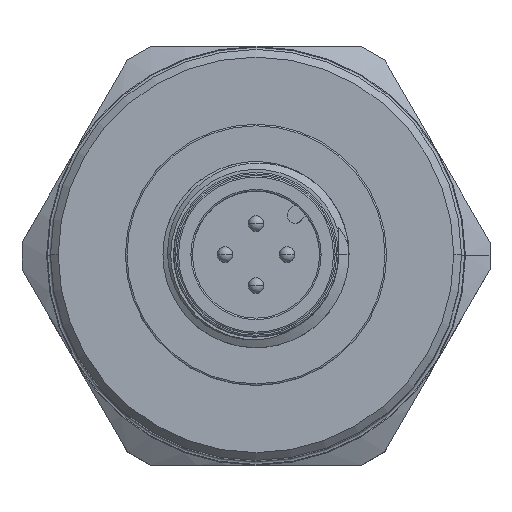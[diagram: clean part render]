
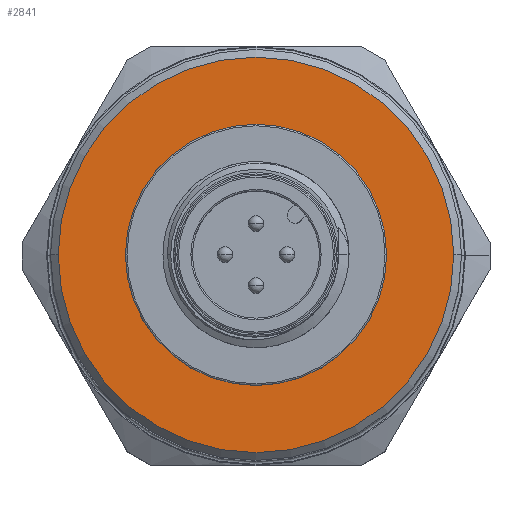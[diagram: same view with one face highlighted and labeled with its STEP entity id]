
A CAD part, top view. The second image highlights one B-rep face of the part: STEP entity #2841.
In plain terms, the highlighted planar face has unit normal (0, 0, 1).
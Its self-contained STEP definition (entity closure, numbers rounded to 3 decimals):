
#346 = AXIS2_PLACEMENT_3D ( 'NONE', #5454, #5074, #2847 ) ;
#519 = EDGE_CURVE ( 'NONE', #4235, #5897, #5898, .T. ) ;
#626 = AXIS2_PLACEMENT_3D ( 'NONE', #1628, #2234, #7017 ) ;
#658 = PLANE ( 'NONE',  #346 ) ;
#870 = EDGE_LOOP ( 'NONE', ( #5861, #1237 ) ) ;
#1063 = CARTESIAN_POINT ( 'NONE',  ( 0., 0., 45. ) ) ;
#1237 = ORIENTED_EDGE ( 'NONE', *, *, #4335, .F. ) ;
#1628 = CARTESIAN_POINT ( 'NONE',  ( 0., 0., 45. ) ) ;
#1904 = CIRCLE ( 'NONE', #5919, 12.75 ) ;
#1946 = EDGE_LOOP ( 'NONE', ( #2581, #2893 ) ) ;
#1989 = DIRECTION ( 'NONE',  ( 1., 0., 0. ) ) ;
#2234 = DIRECTION ( 'NONE',  ( 0., 0., 1. ) ) ;
#2477 = EDGE_CURVE ( 'NONE', #4562, #3381, #1904, .T. ) ;
#2581 = ORIENTED_EDGE ( 'NONE', *, *, #3104, .T. ) ;
#2701 = DIRECTION ( 'NONE',  ( 0., 0., 1. ) ) ;
#2715 = DIRECTION ( 'NONE',  ( 0., 0., 1. ) ) ;
#2798 = DIRECTION ( 'NONE',  ( 0., 0., 1. ) ) ;
#2841 = ADVANCED_FACE ( 'NONE', ( #3713, #5588 ), #658, .T. ) ;
#2847 = DIRECTION ( 'NONE',  ( 1., 0., 0. ) ) ;
#2852 = CARTESIAN_POINT ( 'NONE',  ( 8.42, 0., 45. ) ) ;
#2866 = AXIS2_PLACEMENT_3D ( 'NONE', #3335, #2798, #1989 ) ;
#2893 = ORIENTED_EDGE ( 'NONE', *, *, #2477, .T. ) ;
#3104 = EDGE_CURVE ( 'NONE', #3381, #4562, #6538, .T. ) ;
#3212 = CARTESIAN_POINT ( 'NONE',  ( 0., 0., 45. ) ) ;
#3272 = DIRECTION ( 'NONE',  ( 1., 0., 0. ) ) ;
#3313 = CARTESIAN_POINT ( 'NONE',  ( -8.42, 0., 45. ) ) ;
#3335 = CARTESIAN_POINT ( 'NONE',  ( 0., 0., 45. ) ) ;
#3381 = VERTEX_POINT ( 'NONE', #5385 ) ;
#3713 = FACE_BOUND ( 'NONE', #870, .T. ) ;
#3853 = CARTESIAN_POINT ( 'NONE',  ( 12.75, 0., 45. ) ) ;
#4235 = VERTEX_POINT ( 'NONE', #3313 ) ;
#4335 = EDGE_CURVE ( 'NONE', #5897, #4235, #4897, .T. ) ;
#4562 = VERTEX_POINT ( 'NONE', #3853 ) ;
#4873 = DIRECTION ( 'NONE',  ( 1., 0., 0. ) ) ;
#4897 = CIRCLE ( 'NONE', #5819, 8.42 ) ;
#5074 = DIRECTION ( 'NONE',  ( 0., 0., 1. ) ) ;
#5385 = CARTESIAN_POINT ( 'NONE',  ( -12.75, 0., 45. ) ) ;
#5454 = CARTESIAN_POINT ( 'NONE',  ( 0., 0., 45. ) ) ;
#5588 = FACE_OUTER_BOUND ( 'NONE', #1946, .T. ) ;
#5819 = AXIS2_PLACEMENT_3D ( 'NONE', #1063, #2701, #3272 ) ;
#5861 = ORIENTED_EDGE ( 'NONE', *, *, #519, .F. ) ;
#5897 = VERTEX_POINT ( 'NONE', #2852 ) ;
#5898 = CIRCLE ( 'NONE', #626, 8.42 ) ;
#5919 = AXIS2_PLACEMENT_3D ( 'NONE', #3212, #2715, #4873 ) ;
#6538 = CIRCLE ( 'NONE', #2866, 12.75 ) ;
#7017 = DIRECTION ( 'NONE',  ( 1., 0., 0. ) ) ;
